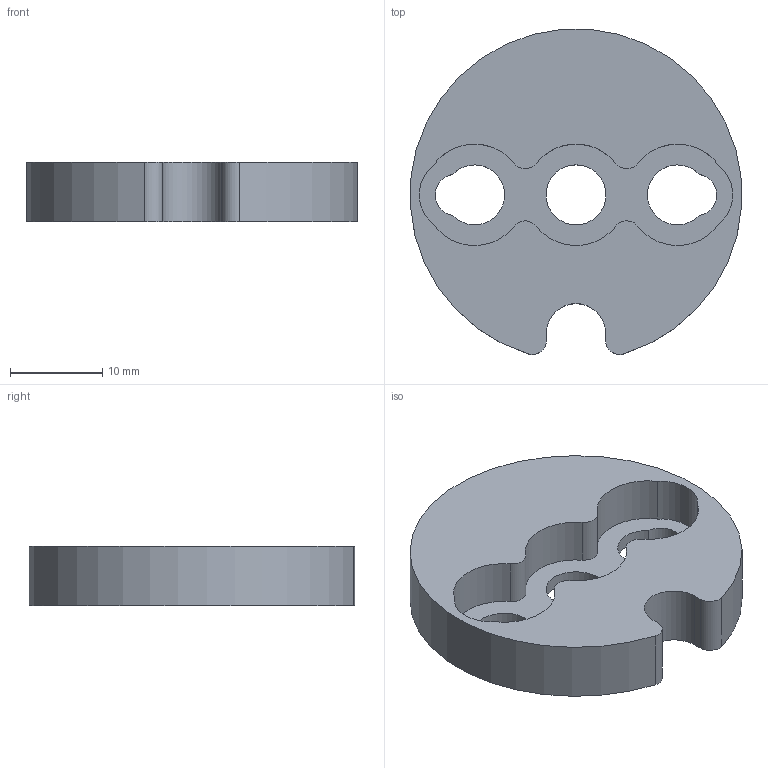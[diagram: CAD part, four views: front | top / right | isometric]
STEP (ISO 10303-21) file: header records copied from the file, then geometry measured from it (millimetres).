
FILE_DESCRIPTION((''),'2;1');
FILE_NAME('K:\Daten\Bauteil1.stp','2011-02-01T09:33:36',('kamp'),(''),'Autodesk Inventor 2008','Autodesk Inventor 2008','');
FILE_SCHEMA(('AUTOMOTIVE_DESIGN { 1 0 10303 214 1 1 1 1 }'));
Length unit declared in the file: millimetre
Products named in the file (1): Bauteil1
Bounding box: 35.91 x 35.25 x 6.5 mm (x, y, z)
Volume: 4739.9 mm3; surface area: 3056.2 mm2
Topology: 1 solids, 1 shells, 26 faces, 69 edges, 46 vertices
Faces by surface type: cylinder 17, plane 5, bspline 4
Full cylindrical faces by diameter (mm): 6.5 x1
Entity records: 964 total; most frequent: CARTESIAN_POINT 209, DIRECTION 156, ORIENTED_EDGE 136, EDGE_CURVE 68, AXIS2_PLACEMENT_3D 65, VERTEX_POINT 46, CIRCLE 42, EDGE_LOOP 34
